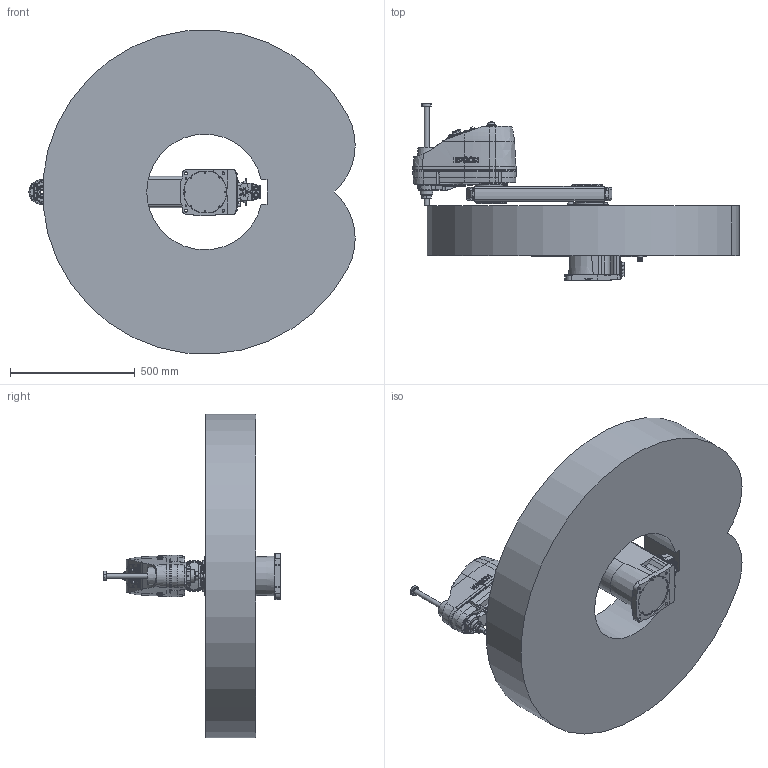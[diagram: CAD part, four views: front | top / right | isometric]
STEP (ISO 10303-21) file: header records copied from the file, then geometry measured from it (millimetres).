
FILE_DESCRIPTION( ( 'STEP AP214' ), '1' );
FILE_NAME( 'C:/Users/9607552/Desktop/GX8-B652S_langle.stp', '2023-07-07T02:53:37', ( '' ), ( '' ), ' ', 'PARTsolutions', ' ' );
FILE_SCHEMA( ( 'AUTOMOTIVE_DESIGN { 1 0 10303 214 1 1 1 1 }' ) );
Length unit declared in the file: millimetre
Products named in the file (9): GX8-B652SA-W; _B452S_BASE; _B652S; _B652S_1; _B652S_2; _B452S_J2; _B452SZA; _Angle-B; _GX8-25-B_WS
Assembly tree (10 placements, depth 2):
  GX8-B652SA-W
    _B452S_BASE
    _B652S
    _B652S_1  x2
    _B652S_2  x2
    _B452S_J2
    _B452SZA
    _Angle-B
    _GX8-25-B_WS
Bounding box: 1308.1 x 709 x 1298.02 mm (x, y, z)
Volume: 249399913.3 mm3; surface area: 4509709.4 mm2
Topology: 10 solids, 10 shells, 2857 faces, 6969 edges, 4547 vertices
Faces by surface type: plane 1440, cylinder 922, cone 333, torus 119, bspline 37, sphere 6
Full cylindrical faces by diameter (mm): 1 x48, 1.18 x55, 2.261 x4, 2.459 x12, 3 x32, 3.242 x18, 3.3 x5, 3.9 x4, 4 x4, 4.2 x8, 4.5 x4, 4.8 x4, 5.34 x4, 5.5 x17, 6 x1, 6.2 x4, 6.647 x4, 6.8 x2, 7 x48, 8 x5, 8.5 x4, 9 x24, 10 x18, 11 x4, 11.2 x5, 11.5 x1, 12 x5, 12.25 x1, 13 x3, 13.2 x12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
Entity records: 101913 total; most frequent: CARTESIAN_POINT 19292, DIRECTION 12595, ORIENTED_EDGE 11602, EDGE_CURVE 5801, AXIS2_PLACEMENT_3D 4838, VERTEX_POINT 4181, EDGE_LOOP 3785, FACE_OUTER_BOUND 3147
